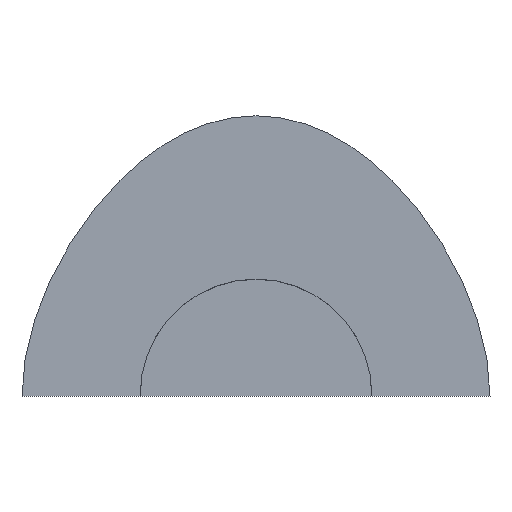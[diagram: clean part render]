
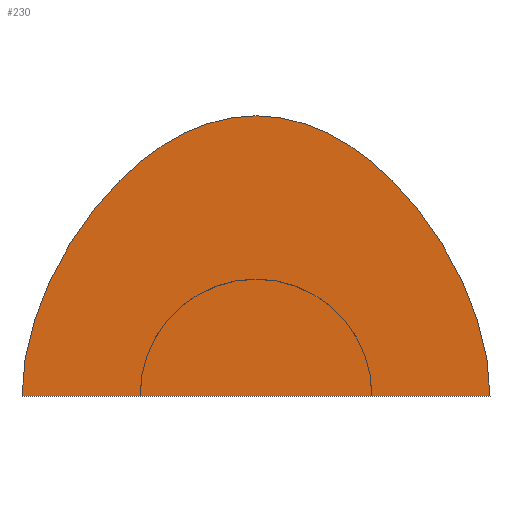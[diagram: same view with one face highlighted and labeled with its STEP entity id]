
A CAD part, top view. The second image highlights one B-rep face of the part: STEP entity #230.
In plain terms, the highlighted planar face has unit normal (0, 0, 1).
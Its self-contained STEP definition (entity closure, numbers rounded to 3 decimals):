
#193=CARTESIAN_POINT('Axis2P3D Location',(0.,49.068,0.)) ;
#198=CARTESIAN_POINT('Line Origine',(0.,0.,0.)) ;
#202=CARTESIAN_POINT('Vertex',(-101.,0.,0.)) ;
#204=CARTESIAN_POINT('Vertex',(101.,0.,0.)) ;
#208=CARTESIAN_POINT('Control Point',(0.,121.,0.)) ;
#209=CARTESIAN_POINT('Control Point',(31.523,121.,0.)) ;
#210=CARTESIAN_POINT('Control Point',(60.713,102.571,0.)) ;
#211=CARTESIAN_POINT('Control Point',(87.571,65.713,0.)) ;
#212=CARTESIAN_POINT('Control Point',(101.,31.523,0.)) ;
#213=CARTESIAN_POINT('Control Point',(101.,0.,0.)) ;
#214=CARTESIAN_POINT('Vertex',(0.,121.,0.)) ;
#218=CARTESIAN_POINT('Control Point',(0.,121.,0.)) ;
#219=CARTESIAN_POINT('Control Point',(-31.523,121.,0.)) ;
#220=CARTESIAN_POINT('Control Point',(-60.713,102.571,0.)) ;
#221=CARTESIAN_POINT('Control Point',(-87.571,65.713,0.)) ;
#222=CARTESIAN_POINT('Control Point',(-101.,31.523,0.)) ;
#223=CARTESIAN_POINT('Control Point',(-101.,0.,0.)) ;
#194=DIRECTION('Axis2P3D Direction',(0.,0.,1.)) ;
#195=DIRECTION('Axis2P3D XDirection',(1.,0.,0.)) ;
#199=DIRECTION('Vector Direction',(1.,0.,0.)) ;
#196=AXIS2_PLACEMENT_3D('Plane Axis2P3D',#193,#194,#195) ;
#226=ORIENTED_EDGE('',*,*,#206,.T.) ;
#227=ORIENTED_EDGE('',*,*,#216,.T.) ;
#228=ORIENTED_EDGE('',*,*,#224,.T.) ;
#200=VECTOR('Line Direction',#199,1.) ;
#230=ADVANCED_FACE('Fill.1',(#229),#197,.T.) ;
#207=B_SPLINE_CURVE_WITH_KNOTS('',5,(#208,#209,#210,#211,#212,#213),.UNSPECIFIED.,.F.,.U.,(6,6),(0.,157.613),.UNSPECIFIED.) ;
#217=B_SPLINE_CURVE_WITH_KNOTS('',5,(#218,#219,#220,#221,#222,#223),.UNSPECIFIED.,.F.,.U.,(6,6),(0.,157.613),.UNSPECIFIED.) ;
#206=EDGE_CURVE('',#203,#205,#201,.T.) ;
#216=EDGE_CURVE('',#205,#215,#207,.F.) ;
#224=EDGE_CURVE('',#215,#203,#217,.T.) ;
#225=EDGE_LOOP('',(#226,#227,#228)) ;
#229=FACE_OUTER_BOUND('',#225,.T.) ;
#201=LINE('Line',#198,#200) ;
#197=PLANE('',#196) ;
#203=VERTEX_POINT('',#202) ;
#205=VERTEX_POINT('',#204) ;
#215=VERTEX_POINT('',#214) ;
